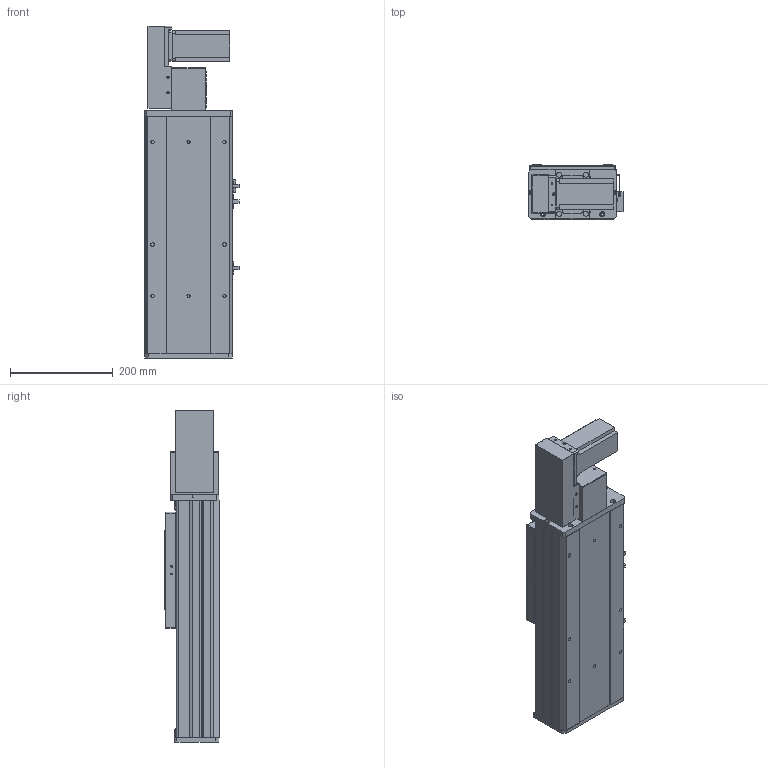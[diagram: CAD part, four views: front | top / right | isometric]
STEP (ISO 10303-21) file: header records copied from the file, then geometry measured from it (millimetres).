
FILE_DESCRIPTION (( 'STEP AP203' ), '1' );
FILE_NAME ('Y170CB-D105-S150-BL-P400W.STEP', '2020-02-20T01:01:02', ( '微软用户' ), ( '微软中国' ), 'SwSTEP 2.0', 'SolidWorks 2017', '' );
FILE_SCHEMA (( 'CONFIG_CONTROL_DESIGN' ));
Length unit declared in the file: millimetre
Products named in the file (18): 70B喘謫眊----; 70CB-耜裔啣-; Y1埴倛裔; 70C--詩湍揤踡え-; B-源倛裔啣; Y170CB-D105-S150-BL-P400W; 70CB--耜裔; 17B-耜蚾蟀諉啣----; 70C-雄赽釱-奻-; 0B-萇儂楊擘啣; 0C--雄赽釱俋欶-170; san松下电机400不带刹车----; 70CB-詩湍--; Y70俋欶BR----; Y100-135俋离換覜ん--; 70CB-掛极-; Y170CB-陔俋离換覜結え---; --70CB --喘謫眊楊擘啣-
Assembly tree (21 placements, depth 2):
  Y170CB-D105-S150-BL-P400W
    B-源倛裔啣
    17B-耜蚾蟀諉啣----
    0B-萇儂楊擘啣
    san松下电机400不带刹车----
    Y70俋欶BR----
    70CB-掛极-
    --70CB --喘謫眊楊擘啣-
    70CB-耜裔啣-  x2
    70C--詩湍揤踡え-  x2
    70CB--耜裔
    70C-雄赽釱-奻-
    0C--雄赽釱俋欶-170
    70CB-詩湍--
    Y100-135俋离換覜ん--  x3
    Y170CB-陔俋离換覜結え---
    70B喘謫眊----
    Y1埴倛裔
Bounding box: 183.5 x 107 x 647 mm (x, y, z)
Volume: 3190575 mm3; surface area: 1122711.2 mm2
Topology: 21 solids, 21 shells, 975 faces, 2597 edges, 1722 vertices
Faces by surface type: cylinder 487, plane 464, cone 24
Entity records: 30860 total; most frequent: CARTESIAN_POINT 5616, DIRECTION 5014, ORIENTED_EDGE 4676, EDGE_CURVE 2338, AXIS2_PLACEMENT_3D 1824, VERTEX_POINT 1552, LINE 1366, VECTOR 1366
